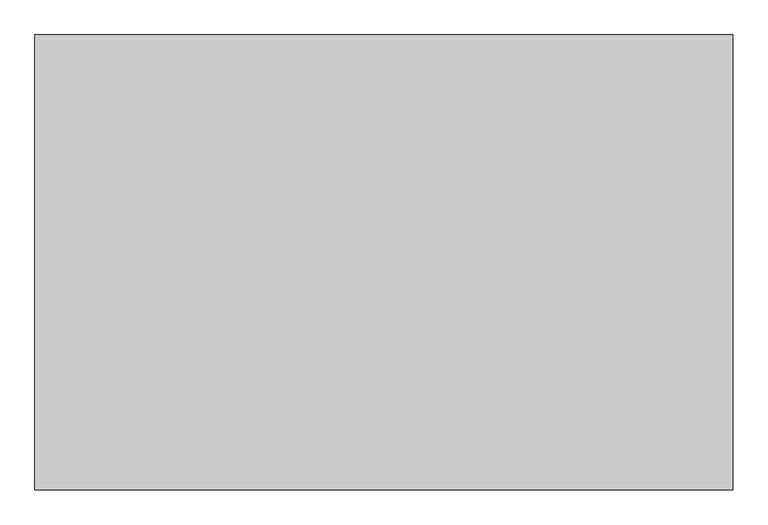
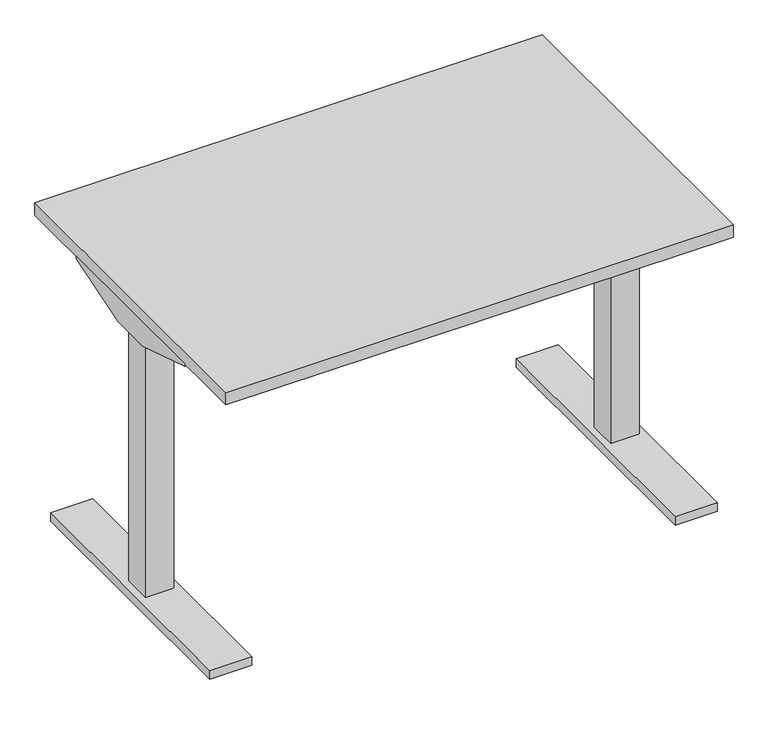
"""IFC4 building model written with IfcOpenShell, lengths in millimetres: furniture geometry, Haworth_Masters_Credenza_Desk.0001 : 30d 46w Credenza Desk - No Shrouds."""

from ifc_helpers import new_model, si_unit, frame, origin, origin_with_axes, place, context, project, spatial, polyline, outline, extrude, source, transform, mapped, element, save


def furniture_8f5b484f(model_context):
    return source(origin(), model_context, "Body", "SweptSolid", [
        extrude(outline(polyline([(-584.2, 317.5), (-487.6601562, 317.5), (-487.6601562, -317.5), (-584.2, -317.5), (-584.2, 317.5)])), origin_with_axes(), (0.0, 0.0, 1.0), 20.6375),
        extrude(outline(polyline([(49.3599854, 648.1304493), (-49.3599854, 648.1304493), (-215.9, 700.0875), (-215.9, 706.4375), (215.9, 706.4375), (215.9, 700.0875), (49.3599854, 648.1304493)])), frame((-584.2, 0.0, 0.0), z_axis=(1.0, 0.0, 0.0), x_axis=(0.0, 1.0, 0.0)), (0.0, 0.0, 1.0), 25.4),
        extrude(outline(polyline([(-558.8, 29.21), (-506.7597656, 29.21), (-506.7597656, -29.21), (-558.8, -29.21), (-558.8, 29.21)])), frame((0.0, 0.0, 642.9375), z_axis=(0.0, 0.0, 1.0), x_axis=(1.0, 0.0, 0.0)), (0.0, 0.0, 1.0), 63.5),
        extrude(outline(polyline([(-568.9699219, 33.02), (-502.8902344, 33.02), (-502.8902344, -33.02), (-568.9699219, -33.02), (-568.9699219, 33.02)])), frame((0.0, 0.0, 20.6375), z_axis=(0.0, 0.0, 1.0), x_axis=(1.0, 0.0, 0.0)), (0.0, 0.0, 1.0), 622.3),
        extrude(outline(polyline([(584.2, 317.5), (584.2, -317.5), (487.6601563, -317.5), (487.6601563, 317.5), (584.2, 317.5)])), origin_with_axes(), (0.0, 0.0, 1.0), 20.6375),
        extrude(outline(polyline([(49.3599854, 648.1304493), (-49.3599854, 648.1304493), (-215.9, 700.0875), (-215.9, 706.4375), (215.9, 706.4375), (215.9, 700.0875), (49.3599854, 648.1304493)])), frame((558.8, 0.0, 0.0), z_axis=(1.0, 0.0, 0.0), x_axis=(0.0, 1.0, 0.0)), (0.0, 0.0, 1.0), 25.4),
        extrude(outline(polyline([(558.8, 29.21), (558.8, -29.21), (506.7597656, -29.21), (506.7597656, 29.21), (558.8, 29.21)])), frame((0.0, 0.0, 642.9375), z_axis=(0.0, 0.0, 1.0), x_axis=(1.0, 0.0, 0.0)), (0.0, 0.0, 1.0), 63.5),
        extrude(outline(polyline([(568.9699219, 33.02), (568.9699219, -33.02), (502.8902344, -33.02), (502.8902344, 33.02), (568.9699219, 33.02)])), frame((0.0, 0.0, 20.6375), z_axis=(0.0, 0.0, 1.0), x_axis=(1.0, 0.0, 0.0)), (0.0, 0.0, 1.0), 622.3),
        extrude(outline(polyline([(584.2, 381.0), (584.2, -381.0), (-584.2, -381.0), (-584.2, 381.0), (584.2, 381.0)])), frame((0.0, 0.0, 706.4375), z_axis=(0.0, 0.0, 1.0), x_axis=(1.0, 0.0, 0.0)), (0.0, 0.0, 1.0), 30.1625),
    ])


if __name__ == "__main__":
    model = new_model("IFC4")
    model_context = context("Model", 3, world=origin())
    ifc_project = project(units=[si_unit("LENGTHUNIT", "METRE", prefix="MILLI")], contexts=[model_context])
    site = spatial("IfcSite", under=ifc_project)
    building = spatial("IfcBuilding", under=site)
    placement = place(None, origin())
    furniture_shape = furniture_8f5b484f(model_context)
    element("IfcFurniture", 1, ObjectType="Haworth_Masters_Credenza_Desk.0001 : 30d 46w Credenza Desk - No Shrouds", at=placement, inside=building, context=model_context, shape_type="MappedRepresentation", body=[
        mapped(furniture_shape, transform((0.0, 0.0, 0.0), x_axis=(1.0, 0.0, 0.0), y_axis=(0.0, 1.0, 0.0), z_axis=(0.0, 0.0, 1.0))),
    ])
    save(model, "model.ifc")
